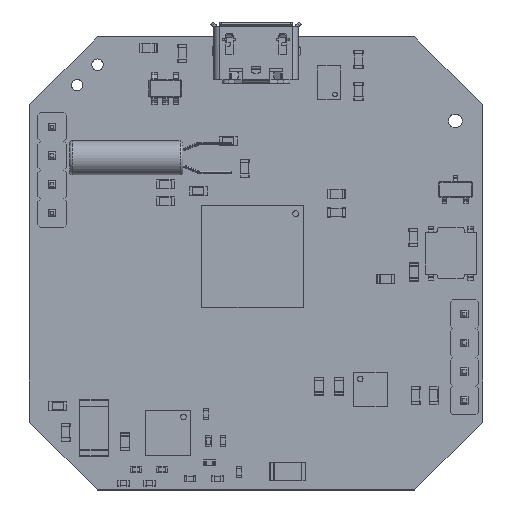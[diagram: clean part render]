
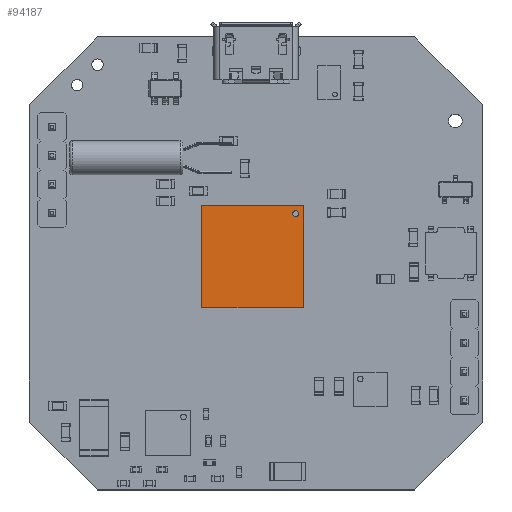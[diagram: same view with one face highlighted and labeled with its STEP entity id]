
A CAD part, top view. The second image highlights one B-rep face of the part: STEP entity #94187.
In plain terms, the highlighted planar face has unit normal (0, 0, 1).
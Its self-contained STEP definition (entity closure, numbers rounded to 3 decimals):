
#66922 = PLANE('',#66923);
#66923 = AXIS2_PLACEMENT_3D('',#66924,#66925,#66926);
#66924 = CARTESIAN_POINT('',(-4.49,4.49,0.02));
#66925 = DIRECTION('',(1.,0.,0.));
#66926 = DIRECTION('',(0.,0.,1.));
#67180 = PLANE('',#67181);
#67181 = AXIS2_PLACEMENT_3D('',#67182,#67183,#67184);
#67182 = CARTESIAN_POINT('',(-4.49,4.49,0.02));
#67183 = DIRECTION('',(0.,-1.,0.));
#67184 = DIRECTION('',(0.,0.,1.));
#68935 = PLANE('',#68936);
#68936 = AXIS2_PLACEMENT_3D('',#68937,#68938,#68939);
#68937 = CARTESIAN_POINT('',(-4.49,-4.49,0.02));
#68938 = DIRECTION('',(0.,-1.,0.));
#68939 = DIRECTION('',(0.,0.,1.));
#70755 = PLANE('',#70756);
#70756 = AXIS2_PLACEMENT_3D('',#70757,#70758,#70759);
#70757 = CARTESIAN_POINT('',(4.49,4.49,0.02));
#70758 = DIRECTION('',(1.,0.,0.));
#70759 = DIRECTION('',(0.,0.,1.));
#74496 = VERTEX_POINT('',#74497);
#74497 = CARTESIAN_POINT('',(-4.49,4.49,0.75));
#74518 = EDGE_CURVE('',#74496,#74519,#74521,.T.);
#74519 = VERTEX_POINT('',#74520);
#74520 = CARTESIAN_POINT('',(-4.49,-4.49,0.75));
#74521 = SURFACE_CURVE('',#74522,(#74526,#74533),.PCURVE_S1.);
#74522 = LINE('',#74523,#74524);
#74523 = CARTESIAN_POINT('',(-4.49,4.49,0.75));
#74524 = VECTOR('',#74525,1.);
#74525 = DIRECTION('',(0.,-1.,0.));
#74526 = PCURVE('',#66922,#74527);
#74527 = DEFINITIONAL_REPRESENTATION('',(#74528),#74532);
#74528 = LINE('',#74529,#74530);
#74529 = CARTESIAN_POINT('',(0.73,0.));
#74530 = VECTOR('',#74531,1.);
#74531 = DIRECTION('',(0.,1.));
#74532 = ( GEOMETRIC_REPRESENTATION_CONTEXT(2) 
PARAMETRIC_REPRESENTATION_CONTEXT() REPRESENTATION_CONTEXT('2D SPACE',''
  ) );
#74533 = PCURVE('',#74534,#74539);
#74534 = PLANE('',#74535);
#74535 = AXIS2_PLACEMENT_3D('',#74536,#74537,#74538);
#74536 = CARTESIAN_POINT('',(-4.49,4.49,0.75));
#74537 = DIRECTION('',(0.,0.,1.));
#74538 = DIRECTION('',(0.,-1.,0.));
#74539 = DEFINITIONAL_REPRESENTATION('',(#74540),#74544);
#74540 = LINE('',#74541,#74542);
#74541 = CARTESIAN_POINT('',(0.,0.));
#74542 = VECTOR('',#74543,1.);
#74543 = DIRECTION('',(1.,0.));
#74544 = ( GEOMETRIC_REPRESENTATION_CONTEXT(2) 
PARAMETRIC_REPRESENTATION_CONTEXT() REPRESENTATION_CONTEXT('2D SPACE',''
  ) );
#75696 = EDGE_CURVE('',#74496,#75697,#75699,.T.);
#75697 = VERTEX_POINT('',#75698);
#75698 = CARTESIAN_POINT('',(4.49,4.49,0.75));
#75699 = SURFACE_CURVE('',#75700,(#75704,#75711),.PCURVE_S1.);
#75700 = LINE('',#75701,#75702);
#75701 = CARTESIAN_POINT('',(-4.49,4.49,0.75));
#75702 = VECTOR('',#75703,1.);
#75703 = DIRECTION('',(1.,0.,0.));
#75704 = PCURVE('',#67180,#75705);
#75705 = DEFINITIONAL_REPRESENTATION('',(#75706),#75710);
#75706 = LINE('',#75707,#75708);
#75707 = CARTESIAN_POINT('',(0.73,0.));
#75708 = VECTOR('',#75709,1.);
#75709 = DIRECTION('',(0.,-1.));
#75710 = ( GEOMETRIC_REPRESENTATION_CONTEXT(2) 
PARAMETRIC_REPRESENTATION_CONTEXT() REPRESENTATION_CONTEXT('2D SPACE',''
  ) );
#75711 = PCURVE('',#74534,#75712);
#75712 = DEFINITIONAL_REPRESENTATION('',(#75713),#75717);
#75713 = LINE('',#75714,#75715);
#75714 = CARTESIAN_POINT('',(0.,0.));
#75715 = VECTOR('',#75716,1.);
#75716 = DIRECTION('',(0.,1.));
#75717 = ( GEOMETRIC_REPRESENTATION_CONTEXT(2) 
PARAMETRIC_REPRESENTATION_CONTEXT() REPRESENTATION_CONTEXT('2D SPACE',''
  ) );
#84107 = EDGE_CURVE('',#75697,#84108,#84110,.T.);
#84108 = VERTEX_POINT('',#84109);
#84109 = CARTESIAN_POINT('',(4.49,-4.49,0.75));
#84110 = SURFACE_CURVE('',#84111,(#84115,#84122),.PCURVE_S1.);
#84111 = LINE('',#84112,#84113);
#84112 = CARTESIAN_POINT('',(4.49,4.49,0.75));
#84113 = VECTOR('',#84114,1.);
#84114 = DIRECTION('',(0.,-1.,0.));
#84115 = PCURVE('',#70755,#84116);
#84116 = DEFINITIONAL_REPRESENTATION('',(#84117),#84121);
#84117 = LINE('',#84118,#84119);
#84118 = CARTESIAN_POINT('',(0.73,0.));
#84119 = VECTOR('',#84120,1.);
#84120 = DIRECTION('',(0.,1.));
#84121 = ( GEOMETRIC_REPRESENTATION_CONTEXT(2) 
PARAMETRIC_REPRESENTATION_CONTEXT() REPRESENTATION_CONTEXT('2D SPACE',''
  ) );
#84122 = PCURVE('',#74534,#84123);
#84123 = DEFINITIONAL_REPRESENTATION('',(#84124),#84128);
#84124 = LINE('',#84125,#84126);
#84125 = CARTESIAN_POINT('',(0.,8.98));
#84126 = VECTOR('',#84127,1.);
#84127 = DIRECTION('',(1.,0.));
#84128 = ( GEOMETRIC_REPRESENTATION_CONTEXT(2) 
PARAMETRIC_REPRESENTATION_CONTEXT() REPRESENTATION_CONTEXT('2D SPACE',''
  ) );
#85322 = EDGE_CURVE('',#74519,#84108,#85323,.T.);
#85323 = SURFACE_CURVE('',#85324,(#85328,#85335),.PCURVE_S1.);
#85324 = LINE('',#85325,#85326);
#85325 = CARTESIAN_POINT('',(-4.49,-4.49,0.75));
#85326 = VECTOR('',#85327,1.);
#85327 = DIRECTION('',(1.,0.,0.));
#85328 = PCURVE('',#68935,#85329);
#85329 = DEFINITIONAL_REPRESENTATION('',(#85330),#85334);
#85330 = LINE('',#85331,#85332);
#85331 = CARTESIAN_POINT('',(0.73,0.));
#85332 = VECTOR('',#85333,1.);
#85333 = DIRECTION('',(0.,-1.));
#85334 = ( GEOMETRIC_REPRESENTATION_CONTEXT(2) 
PARAMETRIC_REPRESENTATION_CONTEXT() REPRESENTATION_CONTEXT('2D SPACE',''
  ) );
#85335 = PCURVE('',#74534,#85336);
#85336 = DEFINITIONAL_REPRESENTATION('',(#85337),#85341);
#85337 = LINE('',#85338,#85339);
#85338 = CARTESIAN_POINT('',(8.98,0.));
#85339 = VECTOR('',#85340,1.);
#85340 = DIRECTION('',(0.,1.));
#85341 = ( GEOMETRIC_REPRESENTATION_CONTEXT(2) 
PARAMETRIC_REPRESENTATION_CONTEXT() REPRESENTATION_CONTEXT('2D SPACE',''
  ) );
#94187 = ADVANCED_FACE('',(#94188,#94194),#74534,.T.);
#94188 = FACE_BOUND('',#94189,.T.);
#94189 = EDGE_LOOP('',(#94190,#94191,#94192,#94193));
#94190 = ORIENTED_EDGE('',*,*,#75696,.F.);
#94191 = ORIENTED_EDGE('',*,*,#74518,.T.);
#94192 = ORIENTED_EDGE('',*,*,#85322,.T.);
#94193 = ORIENTED_EDGE('',*,*,#84107,.F.);
#94194 = FACE_BOUND('',#94195,.T.);
#94195 = EDGE_LOOP('',(#94196));
#94196 = ORIENTED_EDGE('',*,*,#94197,.T.);
#94197 = EDGE_CURVE('',#94198,#94198,#94200,.T.);
#94198 = VERTEX_POINT('',#94199);
#94199 = CARTESIAN_POINT('',(-3.8,3.55,0.75));
#94200 = SURFACE_CURVE('',#94201,(#94206,#94217),.PCURVE_S1.);
#94201 = CIRCLE('',#94202,0.25);
#94202 = AXIS2_PLACEMENT_3D('',#94203,#94204,#94205);
#94203 = CARTESIAN_POINT('',(-3.8,3.8,0.75));
#94204 = DIRECTION('',(0.,-0.,-1.));
#94205 = DIRECTION('',(0.,-1.,0.));
#94206 = PCURVE('',#74534,#94207);
#94207 = DEFINITIONAL_REPRESENTATION('',(#94208),#94216);
#94208 = ( BOUNDED_CURVE() B_SPLINE_CURVE(2,(#94209,#94210,#94211,#94212
    ,#94213,#94214,#94215),.UNSPECIFIED.,.T.,.F.) 
B_SPLINE_CURVE_WITH_KNOTS((1,2,2,2,2,1),(-2.094,0.,
    2.094,4.189,6.283,8.378),
.UNSPECIFIED.) CURVE() GEOMETRIC_REPRESENTATION_ITEM() 
RATIONAL_B_SPLINE_CURVE((1.,0.5,1.,0.5,1.,0.5,1.)) REPRESENTATION_ITEM(
  '') );
#94209 = CARTESIAN_POINT('',(0.94,0.69));
#94210 = CARTESIAN_POINT('',(0.94,0.257));
#94211 = CARTESIAN_POINT('',(0.565,0.473));
#94212 = CARTESIAN_POINT('',(0.19,0.69));
#94213 = CARTESIAN_POINT('',(0.565,0.907));
#94214 = CARTESIAN_POINT('',(0.94,1.123));
#94215 = CARTESIAN_POINT('',(0.94,0.69));
#94216 = ( GEOMETRIC_REPRESENTATION_CONTEXT(2) 
PARAMETRIC_REPRESENTATION_CONTEXT() REPRESENTATION_CONTEXT('2D SPACE',''
  ) );
#94217 = PCURVE('',#94218,#94223);
#94218 = CYLINDRICAL_SURFACE('',#94219,0.25);
#94219 = AXIS2_PLACEMENT_3D('',#94220,#94221,#94222);
#94220 = CARTESIAN_POINT('',(-3.8,3.8,0.76));
#94221 = DIRECTION('',(0.,0.,-1.));
#94222 = DIRECTION('',(0.,-1.,0.));
#94223 = DEFINITIONAL_REPRESENTATION('',(#94224),#94228);
#94224 = LINE('',#94225,#94226);
#94225 = CARTESIAN_POINT('',(0.,0.01));
#94226 = VECTOR('',#94227,1.);
#94227 = DIRECTION('',(1.,0.));
#94228 = ( GEOMETRIC_REPRESENTATION_CONTEXT(2) 
PARAMETRIC_REPRESENTATION_CONTEXT() REPRESENTATION_CONTEXT('2D SPACE',''
  ) );
